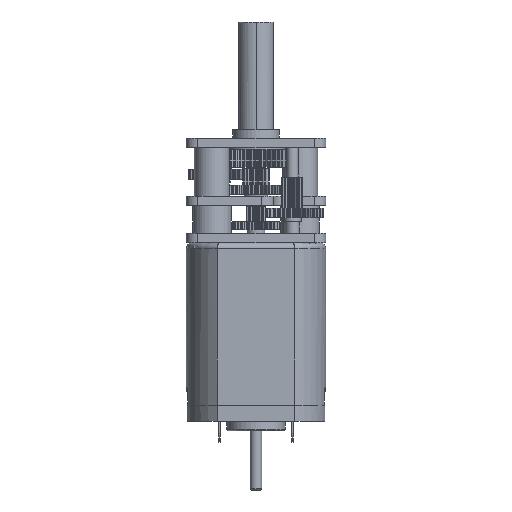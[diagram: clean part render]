
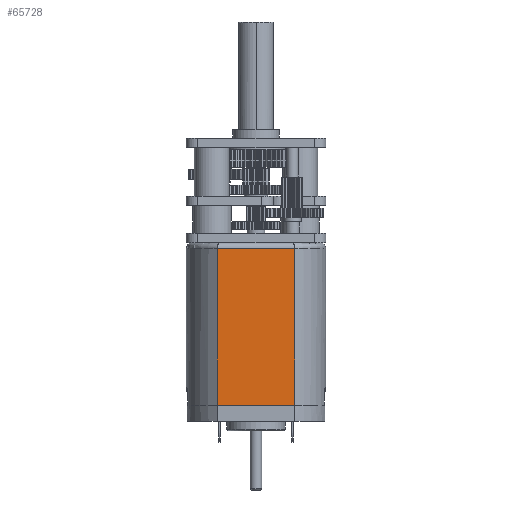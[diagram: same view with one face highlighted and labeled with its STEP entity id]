
A CAD part, front view. The second image highlights one B-rep face of the part: STEP entity #65728.
In plain terms, the highlighted planar face has unit normal (0, -1, 0).
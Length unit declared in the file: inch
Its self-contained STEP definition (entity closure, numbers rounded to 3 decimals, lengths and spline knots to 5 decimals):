
#4427 = CARTESIAN_POINT ( 'NONE',  ( 0., -0.19685, -0.01969 ) ) ;
#8488 = CARTESIAN_POINT ( 'NONE',  ( 0.13058, -0.19685, -0.55118 ) ) ;
#8527 = FACE_OUTER_BOUND ( 'NONE', #65925, .T. ) ;
#15993 = VERTEX_POINT ( 'NONE', #108630 ) ;
#32232 = ORIENTED_EDGE ( 'NONE', *, *, #100706, .T. ) ;
#40509 = LINE ( 'NONE', #52064, #103690 ) ;
#42382 = EDGE_CURVE ( 'NONE', #15993, #75597, #117939, .T. ) ;
#43983 = VECTOR ( 'NONE', #112599, 39.37008 ) ;
#45971 = VERTEX_POINT ( 'NONE', #122189 ) ;
#52064 = CARTESIAN_POINT ( 'NONE',  ( -0.13058, -0.19685, -0.55118 ) ) ;
#59615 = EDGE_CURVE ( 'NONE', #45971, #128536, #132721, .T. ) ;
#60653 = EDGE_CURVE ( 'NONE', #15993, #128536, #40509, .T. ) ;
#61459 = ORIENTED_EDGE ( 'NONE', *, *, #60653, .F. ) ;
#65728 = ADVANCED_FACE ( 'NONE', ( #8527 ), #122776, .T. ) ;
#65925 = EDGE_LOOP ( 'NONE', ( #32232, #127728, #61459, #124379 ) ) ;
#67236 = AXIS2_PLACEMENT_3D ( 'NONE', #92902, #71858, #81373 ) ;
#71858 = DIRECTION ( 'NONE',  ( 0., -1., 0. ) ) ;
#73165 = CARTESIAN_POINT ( 'NONE',  ( -0.04352, -0.19685, -0.55118 ) ) ;
#73845 = CARTESIAN_POINT ( 'NONE',  ( 0.13057, -0.19683, -0.55118 ) ) ;
#75195 = CARTESIAN_POINT ( 'NONE',  ( 0.04352, -0.19685, -0.55118 ) ) ;
#75597 = VERTEX_POINT ( 'NONE', #91897 ) ;
#81373 = DIRECTION ( 'NONE',  ( -1., 0., 0. ) ) ;
#91897 = CARTESIAN_POINT ( 'NONE',  ( 0.13057, -0.19683, -0.55118 ) ) ;
#92902 = CARTESIAN_POINT ( 'NONE',  ( 0., -0.19685, -0.55118 ) ) ;
#92906 = CARTESIAN_POINT ( 'NONE',  ( -0.13058, -0.19685, -0.01969 ) ) ;
#100706 = EDGE_CURVE ( 'NONE', #75597, #45971, #111258, .T. ) ;
#103690 = VECTOR ( 'NONE', #111886, 39.37008 ) ;
#108630 = CARTESIAN_POINT ( 'NONE',  ( -0.13057, -0.19683, -0.55118 ) ) ;
#111258 = LINE ( 'NONE', #8488, #43983 ) ;
#111886 = DIRECTION ( 'NONE',  ( 0., 0., 1. ) ) ;
#112384 = DIRECTION ( 'NONE',  ( -1., 0., 0. ) ) ;
#112599 = DIRECTION ( 'NONE',  ( 0., 0., 1. ) ) ;
#116486 = VECTOR ( 'NONE', #112384, 39.37008 ) ;
#117939 = B_SPLINE_CURVE_WITH_KNOTS ( 'NONE', 3,
 ( #124771, #73165, #75195, #73845 ),
 .UNSPECIFIED., .F., .F.,
 ( 4, 4 ),
 ( 0., 1. ),
 .UNSPECIFIED. ) ;
#122189 = CARTESIAN_POINT ( 'NONE',  ( 0.13058, -0.19685, -0.01969 ) ) ;
#122776 = PLANE ( 'NONE',  #67236 ) ;
#124379 = ORIENTED_EDGE ( 'NONE', *, *, #42382, .T. ) ;
#124771 = CARTESIAN_POINT ( 'NONE',  ( -0.13057, -0.19683, -0.55118 ) ) ;
#127728 = ORIENTED_EDGE ( 'NONE', *, *, #59615, .T. ) ;
#128536 = VERTEX_POINT ( 'NONE', #92906 ) ;
#132721 = LINE ( 'NONE', #4427, #116486 ) ;
